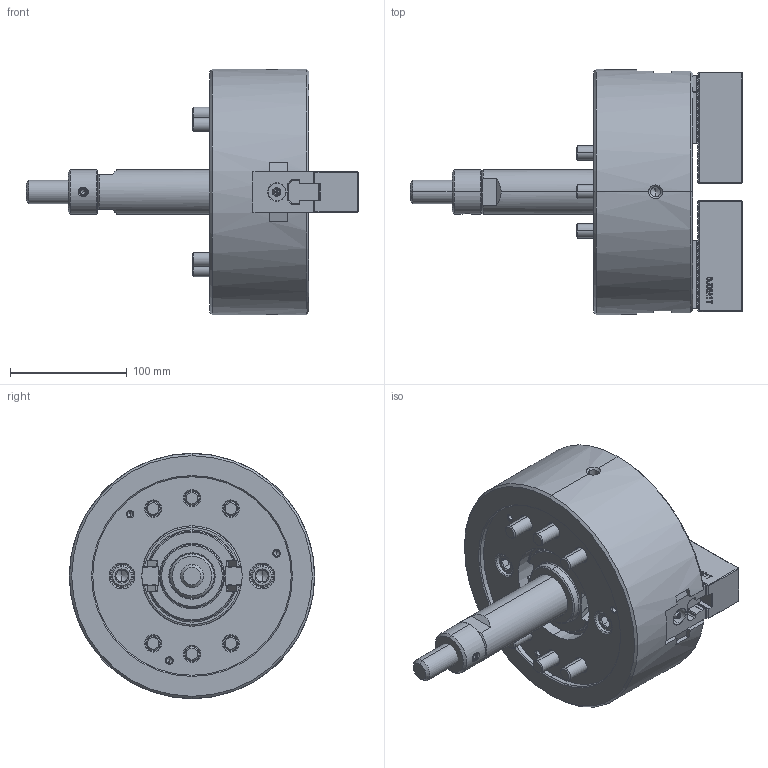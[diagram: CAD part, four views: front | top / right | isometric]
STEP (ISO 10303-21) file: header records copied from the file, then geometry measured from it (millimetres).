
FILE_DESCRIPTION (( 'STEP AP214' ), '1' );
FILE_NAME ('DT1_NLT08_OUTSIDE_VIEW_HOL.STEP', '2026-03-23T04:20:08', ( '' ), ( '' ), 'SwSTEP 2.0', 'SolidWorks 2022', '' );
FILE_SCHEMA (( 'AUTOMOTIVE_DESIGN' ));
Length unit declared in the file: millimetre
Products named in the file (11): DT1_NLT08_BASE^DT1_NLT08; DT1_NLT08_DRAWSCREW^DT1_NLT08; DT1_NLT08_OUTSIDE_VIEW_HOL; DT1_NLT08_SOFTJAW^DT1_NLT08; Copy of 61P310518^DT1_NLT08; DT1_NLT08_TNUT^DT1_NLT08; DT1_NLT08_DN^DT1_NLT08; DT1_NLT08_M12x35^DT1_NLT08; DT1_NLT08_M5x12^DT1_NLT08; DT1_NLT08_COVER^DT1_NLT08; DT1_NLT08_M12x85^DT1_NLT08
Assembly tree (23 placements, depth 2):
  DT1_NLT08_OUTSIDE_VIEW_HOL
    DT1_NLT08_SOFTJAW^DT1_NLT08  x2
    DT1_NLT08_TNUT^DT1_NLT08  x2
    DT1_NLT08_COVER^DT1_NLT08
    DT1_NLT08_DRAWSCREW^DT1_NLT08
    Copy of 61P310518^DT1_NLT08
    DT1_NLT08_DN^DT1_NLT08
    DT1_NLT08_BASE^DT1_NLT08
    DT1_NLT08_M12x85^DT1_NLT08  x6
    DT1_NLT08_M12x35^DT1_NLT08  x4
    DT1_NLT08_M5x12^DT1_NLT08  x4
Bounding box: 284.31 x 210 x 210 mm (x, y, z)
Volume: 3060672.1 mm3; surface area: 348281.1 mm2
Topology: 23 solids, 23 shells, 3791 faces, 10627 edges, 6935 vertices
Faces by surface type: plane 2160, cylinder 931, cone 376, bspline 269, torus 51, sphere 4
Entity records: 95568 total; most frequent: CARTESIAN_POINT 29160, ORIENTED_EDGE 15134, DIRECTION 11683, EDGE_CURVE 7567, VECTOR 5121, LINE 5121, VERTEX_POINT 4954, AXIS2_PLACEMENT_3D 3281
